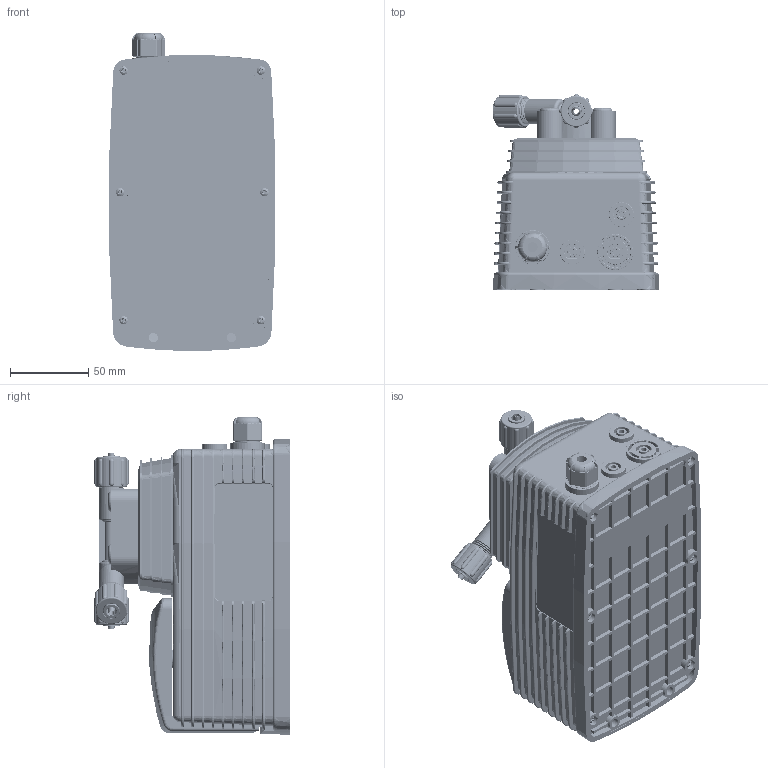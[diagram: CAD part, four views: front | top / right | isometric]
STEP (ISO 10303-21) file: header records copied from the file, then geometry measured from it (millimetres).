
FILE_DESCRIPTION (( 'STEP AP214' ), '1' );
FILE_NAME ('EMEC VA Series Pump.STEP', '2020-01-14T02:57:11', ( '' ), ( '' ), 'SwSTEP 2.0', 'SolidWorks 2018', '' );
FILE_SCHEMA (( 'AUTOMOTIVE_DESIGN' ));
Length unit declared in the file: millimetre
Products named in the file (29): Gland - 16mm; Solenoid - Complete; Gland - 16mm - Bush; Solenoid - Washer; Gland - 16mm - Body; Solenoid - Plunger; EMEC 025.XXXX.X - Hose Fitting Kit - 3_8in 4x6_Hose Fitting Kit - 3_8in - 4x6 - FP; Solenoid - Pin; Hose Fitting Kit - 3_8in - Nut_Hose Fitting Kit - 3_8in - Nut - FP; Solenoid - Nut; Hose Fitting Kit - 3_8in - 4x6 Clamp; Solenoid - Limit Plate; Hose Fitting Kit - 3_8in - 4x6 Cone; Solenoid - Main Body; Screw - Pan Head - 15mm; EMEC V series pump - Body Back; EMEC V series pump - Head_DeGassing Head; EMEC V series pump - Speed Adjustment Knob; Bolt Cap - Plastic - Small; EMEC V series pump - Body; Washer - SS - M4 - 11.6mm; Bolt - SS - Hex Head - M4x0.5; EMEC VA Series Pump; O-Ring - 11.5 x 1.75; O-Ring - 39.0 x 2.5 - Head O-Ring; EMEC V series pump - Head_Degassing head; EMEC V series pump - Diaphgram; Screw - Countersunk - Mini; EMEC V series pump - Clear (Tinted) Lid
Assembly tree (47 placements, depth 3):
  EMEC VA Series Pump
    EMEC V series pump - Body
    EMEC V series pump - Speed Adjustment Knob
    EMEC V series pump - Body Back
    Solenoid - Complete
      Solenoid - Main Body
      Solenoid - Limit Plate
      Solenoid - Nut
      Solenoid - Pin
      Solenoid - Plunger
      Solenoid - Washer
    EMEC V series pump - Clear (Tinted) Lid
    Screw - Countersunk - Mini  x2
    EMEC V series pump - Diaphgram
    EMEC V series pump - Head_DeGassing Head
      EMEC V series pump - Head_Degassing head
      O-Ring - 39.0 x 2.5 - Head O-Ring
      O-Ring - 11.5 x 1.75  x3
      Bolt - SS - Hex Head - M4x0.5  x4
      Washer - SS - M4 - 11.6mm  x4
      Bolt Cap - Plastic - Small  x4
    Screw - Pan Head - 15mm  x6
    EMEC 025.XXXX.X - Hose Fitting Kit - 3_8in 4x6_Hose Fitting Kit - 3_8in - 4x6 - FP  x3
      Hose Fitting Kit - 3_8in - 4x6 Cone
      Hose Fitting Kit - 3_8in - 4x6 Clamp
      Hose Fitting Kit - 3_8in - Nut_Hose Fitting Kit - 3_8in - Nut - FP
    Gland - 16mm
      Gland - 16mm - Body
      Gland - 16mm - Bush
Bounding box: 106.99 x 125.25 x 203.64 mm (x, y, z)
Volume: 647637.1 mm3; surface area: 319178.6 mm2
Topology: 71 solids, 71 shells, 4321 faces, 10869 edges, 6939 vertices
Faces by surface type: plane 1239, cylinder 1139, bspline 1093, torus 518, cone 266, sphere 66
Entity records: 236405 total; most frequent: CARTESIAN_POINT 167283, ORIENTED_EDGE 15126, DIRECTION 12802, EDGE_CURVE 7563, AXIS2_PLACEMENT_3D 4916, VERTEX_POINT 4824, EDGE_LOOP 3247, ADVANCED_FACE 2985
